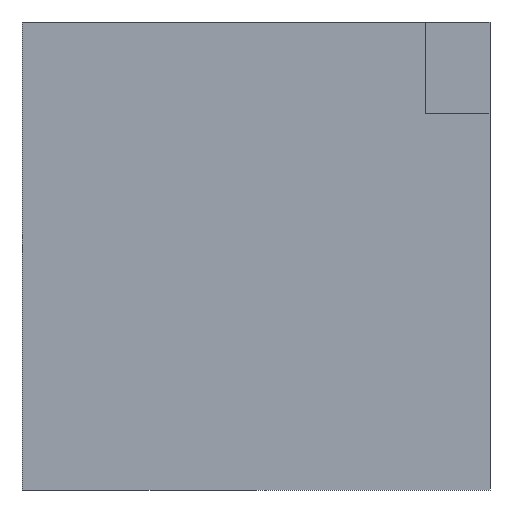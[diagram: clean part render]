
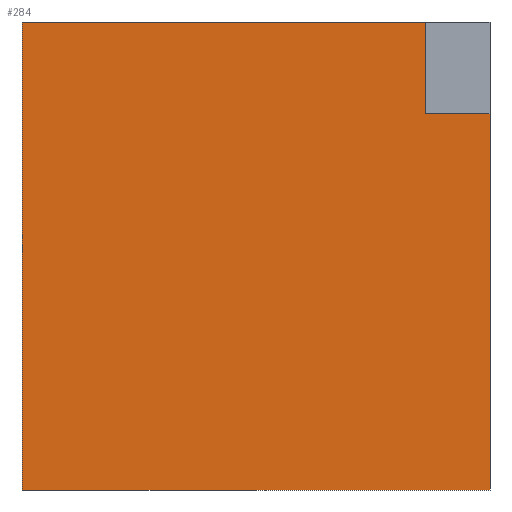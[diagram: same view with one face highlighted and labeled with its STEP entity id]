
A CAD part, left-side view. The second image highlights one B-rep face of the part: STEP entity #284.
In plain terms, the highlighted planar face has unit normal (-1, 0, 0).
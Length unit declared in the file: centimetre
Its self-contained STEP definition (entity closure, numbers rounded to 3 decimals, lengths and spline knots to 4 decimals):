
#5 = EDGE_CURVE ( 'NONE', #267, #296, #234, .T. ) ;
#18 = CARTESIAN_POINT ( 'NONE',  ( 0., 0., 0. ) ) ;
#29 = CARTESIAN_POINT ( 'NONE',  ( 0., 138.8591, 804.1264 ) ) ;
#43 = DIRECTION ( 'NONE',  ( 0., -1., 0. ) ) ;
#51 = VECTOR ( 'NONE', #380, 100. ) ;
#59 = DIRECTION ( 'NONE',  ( 0., 0., -1. ) ) ;
#65 = VECTOR ( 'NONE', #107, 100. ) ;
#70 = EDGE_LOOP ( 'NONE', ( #260, #466, #469, #500, #84, #435 ) ) ;
#84 = ORIENTED_EDGE ( 'NONE', *, *, #477, .T. ) ;
#94 = LINE ( 'NONE', #404, #105 ) ;
#105 = VECTOR ( 'NONE', #204, 100. ) ;
#107 = DIRECTION ( 'NONE',  ( 0., 0., 1. ) ) ;
#138 = VECTOR ( 'NONE', #43, 100. ) ;
#140 = FACE_OUTER_BOUND ( 'NONE', #70, .T. ) ;
#171 = DIRECTION ( 'NONE',  ( 1., 0., 0. ) ) ;
#182 = DIRECTION ( 'NONE',  ( 0., 0., -1. ) ) ;
#189 = EDGE_CURVE ( 'NONE', #229, #257, #94, .T. ) ;
#191 = CARTESIAN_POINT ( 'NONE',  ( 0., 1000., 1000. ) ) ;
#204 = DIRECTION ( 'NONE',  ( 0., 0., -1. ) ) ;
#211 = CARTESIAN_POINT ( 'NONE',  ( 0., 138.8591, 1000. ) ) ;
#223 = CARTESIAN_POINT ( 'NONE',  ( 0., 1000., 0. ) ) ;
#227 = EDGE_CURVE ( 'NONE', #381, #229, #292, .T. ) ;
#229 = VERTEX_POINT ( 'NONE', #328 ) ;
#233 = AXIS2_PLACEMENT_3D ( 'NONE', #288, #171, #59 ) ;
#234 = LINE ( 'NONE', #394, #138 ) ;
#251 = CARTESIAN_POINT ( 'NONE',  ( 0., 1000., 1000. ) ) ;
#257 = VERTEX_POINT ( 'NONE', #18 ) ;
#260 = ORIENTED_EDGE ( 'NONE', *, *, #227, .F. ) ;
#265 = VERTEX_POINT ( 'NONE', #405 ) ;
#267 = VERTEX_POINT ( 'NONE', #251 ) ;
#281 = VECTOR ( 'NONE', #407, 100. ) ;
#284 = ADVANCED_FACE ( 'NONE', ( #140 ), #409, .F. ) ;
#288 = CARTESIAN_POINT ( 'NONE',  ( 0., 1000., 1000. ) ) ;
#292 = LINE ( 'NONE', #330, #281 ) ;
#293 = VECTOR ( 'NONE', #182, 100. ) ;
#294 = LINE ( 'NONE', #453, #65 ) ;
#296 = VERTEX_POINT ( 'NONE', #211 ) ;
#304 = LINE ( 'NONE', #191, #293 ) ;
#328 = CARTESIAN_POINT ( 'NONE',  ( 0., 0., 804.1264 ) ) ;
#330 = CARTESIAN_POINT ( 'NONE',  ( 0., 0., 804.1264 ) ) ;
#367 = EDGE_CURVE ( 'NONE', #267, #265, #304, .T. ) ;
#380 = DIRECTION ( 'NONE',  ( 0., -1., 0. ) ) ;
#381 = VERTEX_POINT ( 'NONE', #29 ) ;
#394 = CARTESIAN_POINT ( 'NONE',  ( 0., 1000., 1000. ) ) ;
#404 = CARTESIAN_POINT ( 'NONE',  ( 0., 0., 1000. ) ) ;
#405 = CARTESIAN_POINT ( 'NONE',  ( 0., 1000., 0. ) ) ;
#407 = DIRECTION ( 'NONE',  ( 0., -1., 0. ) ) ;
#409 = PLANE ( 'NONE',  #233 ) ;
#418 = LINE ( 'NONE', #223, #51 ) ;
#435 = ORIENTED_EDGE ( 'NONE', *, *, #189, .F. ) ;
#447 = EDGE_CURVE ( 'NONE', #381, #296, #294, .T. ) ;
#453 = CARTESIAN_POINT ( 'NONE',  ( 0., 138.8591, 804.1264 ) ) ;
#466 = ORIENTED_EDGE ( 'NONE', *, *, #447, .T. ) ;
#469 = ORIENTED_EDGE ( 'NONE', *, *, #5, .F. ) ;
#477 = EDGE_CURVE ( 'NONE', #265, #257, #418, .T. ) ;
#500 = ORIENTED_EDGE ( 'NONE', *, *, #367, .T. ) ;
